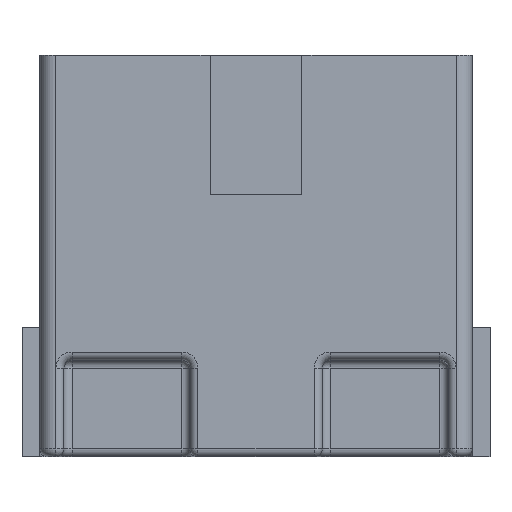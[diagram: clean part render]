
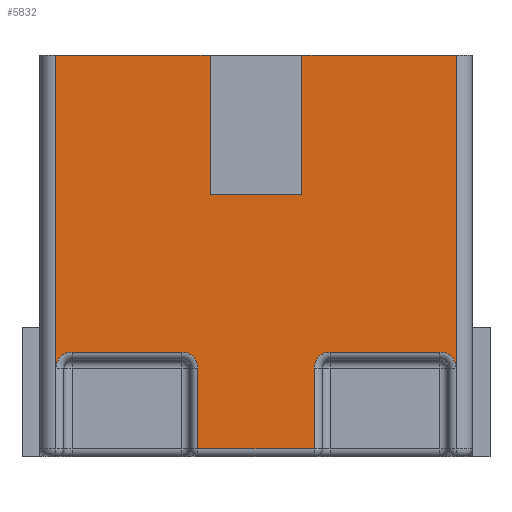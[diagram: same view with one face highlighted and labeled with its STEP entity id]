
A CAD part, front view. The second image highlights one B-rep face of the part: STEP entity #5832.
In plain terms, the highlighted planar face has unit normal (0, -1, 0).
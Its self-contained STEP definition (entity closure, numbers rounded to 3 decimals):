
#15 = DIRECTION ( 'NONE',  ( 0., -1., 0. ) ) ;
#42 = VECTOR ( 'NONE', #1496, 1000. ) ;
#101 = VERTEX_POINT ( 'NONE', #643 ) ;
#125 = DIRECTION ( 'NONE',  ( 0., 0., 1. ) ) ;
#130 = DIRECTION ( 'NONE',  ( 0., -1., 0. ) ) ;
#148 = DIRECTION ( 'NONE',  ( 1., 0., 0. ) ) ;
#228 = EDGE_CURVE ( 'NONE', #2653, #2617, #5258, .T. ) ;
#235 = CIRCLE ( 'NONE', #4282, 1. ) ;
#388 = VERTEX_POINT ( 'NONE', #1285 ) ;
#442 = CARTESIAN_POINT ( 'NONE',  ( 12.4, -15.9, 24.9 ) ) ;
#448 = EDGE_CURVE ( 'NONE', #3438, #4295, #3079, .T. ) ;
#490 = CARTESIAN_POINT ( 'NONE',  ( -2.85, -15.9, 24.9 ) ) ;
#568 = VECTOR ( 'NONE', #3456, 1000. ) ;
#602 = VECTOR ( 'NONE', #2916, 1000. ) ;
#607 = VECTOR ( 'NONE', #4947, 1000. ) ;
#626 = AXIS2_PLACEMENT_3D ( 'NONE', #1568, #4698, #2022 ) ;
#643 = CARTESIAN_POINT ( 'NONE',  ( -11.4, -15.9, 6.5 ) ) ;
#689 = ORIENTED_EDGE ( 'NONE', *, *, #5002, .F. ) ;
#691 = DIRECTION ( 'NONE',  ( 0., 1., 0. ) ) ;
#694 = ORIENTED_EDGE ( 'NONE', *, *, #1859, .F. ) ;
#714 = EDGE_CURVE ( 'NONE', #3511, #4211, #1815, .T. ) ;
#715 = LINE ( 'NONE', #3898, #568 ) ;
#721 = DIRECTION ( 'NONE',  ( 1., 0., 0. ) ) ;
#801 = LINE ( 'NONE', #1831, #3200 ) ;
#936 = LINE ( 'NONE', #1083, #2144 ) ;
#995 = CARTESIAN_POINT ( 'NONE',  ( 3.6, -15.9, 24.9 ) ) ;
#1021 = VECTOR ( 'NONE', #3681, 1000. ) ;
#1022 = ORIENTED_EDGE ( 'NONE', *, *, #1476, .F. ) ;
#1042 = CARTESIAN_POINT ( 'NONE',  ( -12.4, -15.9, 24.9 ) ) ;
#1083 = CARTESIAN_POINT ( 'NONE',  ( 12.4, -15.9, 6.5 ) ) ;
#1117 = CARTESIAN_POINT ( 'NONE',  ( 2.85, -15.9, 16.25 ) ) ;
#1193 = DIRECTION ( 'NONE',  ( 1., 0., 0. ) ) ;
#1195 = ORIENTED_EDGE ( 'NONE', *, *, #4554, .T. ) ;
#1285 = CARTESIAN_POINT ( 'NONE',  ( 3.6, -15.9, 5.5 ) ) ;
#1435 = ORIENTED_EDGE ( 'NONE', *, *, #5202, .T. ) ;
#1476 = EDGE_CURVE ( 'NONE', #101, #1948, #2085, .T. ) ;
#1495 = EDGE_CURVE ( 'NONE', #3005, #1948, #2992, .T. ) ;
#1496 = DIRECTION ( 'NONE',  ( 0., 0., -1. ) ) ;
#1553 = VERTEX_POINT ( 'NONE', #2425 ) ;
#1568 = CARTESIAN_POINT ( 'NONE',  ( 4.6, -15.9, 5.5 ) ) ;
#1640 = EDGE_CURVE ( 'NONE', #4880, #2653, #4121, .T. ) ;
#1726 = VECTOR ( 'NONE', #1193, 1000. ) ;
#1813 = CARTESIAN_POINT ( 'NONE',  ( 12.4, -15.9, 24.9 ) ) ;
#1815 = LINE ( 'NONE', #2477, #602 ) ;
#1831 = CARTESIAN_POINT ( 'NONE',  ( 12.4, -15.9, 24.9 ) ) ;
#1859 = EDGE_CURVE ( 'NONE', #2617, #3438, #4050, .T. ) ;
#1881 = AXIS2_PLACEMENT_3D ( 'NONE', #2726, #15, #3174 ) ;
#1901 = CARTESIAN_POINT ( 'NONE',  ( 11.4, -15.9, 6.5 ) ) ;
#1948 = VERTEX_POINT ( 'NONE', #2320 ) ;
#1963 = ORIENTED_EDGE ( 'NONE', *, *, #448, .F. ) ;
#2022 = DIRECTION ( 'NONE',  ( 0., 0., 1. ) ) ;
#2044 = CARTESIAN_POINT ( 'NONE',  ( 12.4, -15.9, 24.9 ) ) ;
#2054 = DIRECTION ( 'NONE',  ( 0., 0., 1. ) ) ;
#2085 = CIRCLE ( 'NONE', #3232, 1. ) ;
#2089 = LINE ( 'NONE', #995, #1021 ) ;
#2144 = VECTOR ( 'NONE', #2904, 1000. ) ;
#2228 = DIRECTION ( 'NONE',  ( 0., 0., 1. ) ) ;
#2244 = ORIENTED_EDGE ( 'NONE', *, *, #1640, .F. ) ;
#2320 = CARTESIAN_POINT ( 'NONE',  ( -12.4, -15.9, 5.5 ) ) ;
#2425 = CARTESIAN_POINT ( 'NONE',  ( -4.6, -15.9, 6.5 ) ) ;
#2432 = ORIENTED_EDGE ( 'NONE', *, *, #4718, .T. ) ;
#2435 = CARTESIAN_POINT ( 'NONE',  ( 12.4, -15.9, 5.5 ) ) ;
#2451 = ORIENTED_EDGE ( 'NONE', *, *, #2721, .T. ) ;
#2477 = CARTESIAN_POINT ( 'NONE',  ( -3.6, -15.9, 24.9 ) ) ;
#2553 = CARTESIAN_POINT ( 'NONE',  ( -2.85, -15.9, 16.25 ) ) ;
#2595 = VERTEX_POINT ( 'NONE', #2683 ) ;
#2617 = VERTEX_POINT ( 'NONE', #442 ) ;
#2653 = VERTEX_POINT ( 'NONE', #5411 ) ;
#2683 = CARTESIAN_POINT ( 'NONE',  ( 3.6, -15.9, 0.5 ) ) ;
#2700 = FACE_OUTER_BOUND ( 'NONE', #5131, .T. ) ;
#2721 = EDGE_CURVE ( 'NONE', #2595, #388, #2089, .T. ) ;
#2726 = CARTESIAN_POINT ( 'NONE',  ( 11.4, -15.9, 5.5 ) ) ;
#2750 = AXIS2_PLACEMENT_3D ( 'NONE', #2044, #691, #3831 ) ;
#2828 = DIRECTION ( 'NONE',  ( 0., -1., 0. ) ) ;
#2832 = CARTESIAN_POINT ( 'NONE',  ( -11.4, -15.9, 5.5 ) ) ;
#2904 = DIRECTION ( 'NONE',  ( 1., 0., 0. ) ) ;
#2916 = DIRECTION ( 'NONE',  ( 0., 0., -1. ) ) ;
#2923 = LINE ( 'NONE', #2553, #1726 ) ;
#2933 = VERTEX_POINT ( 'NONE', #5639 ) ;
#2945 = VECTOR ( 'NONE', #2054, 1000. ) ;
#2991 = ORIENTED_EDGE ( 'NONE', *, *, #714, .T. ) ;
#2992 = LINE ( 'NONE', #1042, #42 ) ;
#3005 = VERTEX_POINT ( 'NONE', #5218 ) ;
#3034 = EDGE_CURVE ( 'NONE', #3984, #4880, #2923, .T. ) ;
#3079 = CIRCLE ( 'NONE', #1881, 1. ) ;
#3174 = DIRECTION ( 'NONE',  ( 0., 0., 1. ) ) ;
#3200 = VECTOR ( 'NONE', #4967, 1000. ) ;
#3232 = AXIS2_PLACEMENT_3D ( 'NONE', #2832, #130, #3285 ) ;
#3285 = DIRECTION ( 'NONE',  ( 0., 0., 1. ) ) ;
#3438 = VERTEX_POINT ( 'NONE', #2435 ) ;
#3456 = DIRECTION ( 'NONE',  ( 1., 0., 0. ) ) ;
#3458 = VECTOR ( 'NONE', #2228, 1000. ) ;
#3461 = EDGE_CURVE ( 'NONE', #101, #1553, #936, .T. ) ;
#3462 = CARTESIAN_POINT ( 'NONE',  ( -2.85, -15.9, 16.25 ) ) ;
#3511 = VERTEX_POINT ( 'NONE', #5649 ) ;
#3681 = DIRECTION ( 'NONE',  ( 0., 0., 1. ) ) ;
#3798 = EDGE_CURVE ( 'NONE', #2933, #388, #4807, .T. ) ;
#3830 = ORIENTED_EDGE ( 'NONE', *, *, #3798, .F. ) ;
#3831 = DIRECTION ( 'NONE',  ( 0., 0., 1. ) ) ;
#3898 = CARTESIAN_POINT ( 'NONE',  ( 12.4, -15.9, 0.5 ) ) ;
#3920 = ORIENTED_EDGE ( 'NONE', *, *, #3461, .T. ) ;
#3929 = ORIENTED_EDGE ( 'NONE', *, *, #1495, .T. ) ;
#3949 = ORIENTED_EDGE ( 'NONE', *, *, #228, .F. ) ;
#3984 = VERTEX_POINT ( 'NONE', #3462 ) ;
#4050 = LINE ( 'NONE', #1813, #607 ) ;
#4053 = VECTOR ( 'NONE', #721, 1000. ) ;
#4121 = LINE ( 'NONE', #1117, #2945 ) ;
#4211 = VERTEX_POINT ( 'NONE', #5448 ) ;
#4282 = AXIS2_PLACEMENT_3D ( 'NONE', #5512, #2828, #125 ) ;
#4295 = VERTEX_POINT ( 'NONE', #1901 ) ;
#4298 = CARTESIAN_POINT ( 'NONE',  ( 12.4, -15.9, 24.9 ) ) ;
#4416 = ORIENTED_EDGE ( 'NONE', *, *, #3034, .F. ) ;
#4554 = EDGE_CURVE ( 'NONE', #4211, #2595, #715, .T. ) ;
#4565 = CARTESIAN_POINT ( 'NONE',  ( 2.85, -15.9, 16.25 ) ) ;
#4586 = VECTOR ( 'NONE', #148, 1000. ) ;
#4641 = LINE ( 'NONE', #5823, #3458 ) ;
#4698 = DIRECTION ( 'NONE',  ( 0., -1., 0. ) ) ;
#4718 = EDGE_CURVE ( 'NONE', #3984, #5555, #4641, .T. ) ;
#4793 = ORIENTED_EDGE ( 'NONE', *, *, #5158, .F. ) ;
#4807 = CIRCLE ( 'NONE', #626, 1. ) ;
#4880 = VERTEX_POINT ( 'NONE', #4565 ) ;
#4947 = DIRECTION ( 'NONE',  ( 0., 0., -1. ) ) ;
#4967 = DIRECTION ( 'NONE',  ( 1., 0., 0. ) ) ;
#5002 = EDGE_CURVE ( 'NONE', #3005, #5555, #801, .T. ) ;
#5131 = EDGE_LOOP ( 'NONE', ( #3949, #2244, #4416, #2432, #689, #3929, #1022, #3920, #4793, #2991, #1195, #2451, #3830, #1435, #1963, #694 ) ) ;
#5158 = EDGE_CURVE ( 'NONE', #3511, #1553, #235, .T. ) ;
#5177 = PLANE ( 'NONE',  #2750 ) ;
#5202 = EDGE_CURVE ( 'NONE', #2933, #4295, #5803, .T. ) ;
#5218 = CARTESIAN_POINT ( 'NONE',  ( -12.4, -15.9, 24.9 ) ) ;
#5258 = LINE ( 'NONE', #4298, #4053 ) ;
#5411 = CARTESIAN_POINT ( 'NONE',  ( 2.85, -15.9, 24.9 ) ) ;
#5448 = CARTESIAN_POINT ( 'NONE',  ( -3.6, -15.9, 0.5 ) ) ;
#5512 = CARTESIAN_POINT ( 'NONE',  ( -4.6, -15.9, 5.5 ) ) ;
#5540 = CARTESIAN_POINT ( 'NONE',  ( 12.4, -15.9, 6.5 ) ) ;
#5555 = VERTEX_POINT ( 'NONE', #490 ) ;
#5639 = CARTESIAN_POINT ( 'NONE',  ( 4.6, -15.9, 6.5 ) ) ;
#5649 = CARTESIAN_POINT ( 'NONE',  ( -3.6, -15.9, 5.5 ) ) ;
#5803 = LINE ( 'NONE', #5540, #4586 ) ;
#5823 = CARTESIAN_POINT ( 'NONE',  ( -2.85, -15.9, 16.25 ) ) ;
#5832 = ADVANCED_FACE ( 'NONE', ( #2700 ), #5177, .F. ) ;
